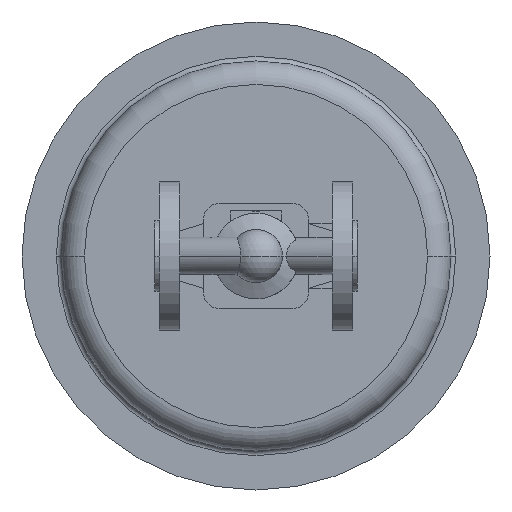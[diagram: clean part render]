
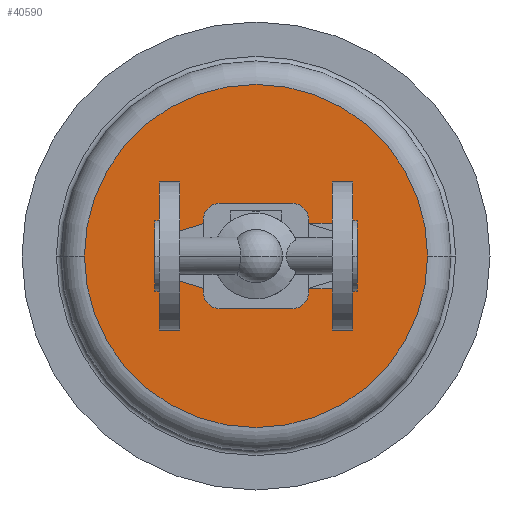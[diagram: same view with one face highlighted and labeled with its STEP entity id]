
A CAD part, front view. The second image highlights one B-rep face of the part: STEP entity #40590.
In plain terms, the highlighted planar face has unit normal (0, -1, 0).
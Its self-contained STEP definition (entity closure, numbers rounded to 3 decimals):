
#33290=CARTESIAN_POINT('',(-45.,348.,0.));
#33300=VERTEX_POINT('',#33290);
#33390=CARTESIAN_POINT('',(175.,348.,0.));
#33400=VERTEX_POINT('',#33390);
#33430=CARTESIAN_POINT('',(65.,348.,0.));
#33440=DIRECTION('',(0.,1.,0.));
#33450=DIRECTION('',(1.,0.,0.));
#33460=AXIS2_PLACEMENT_3D('',#33430,#33440,#33450);
#33470=CIRCLE('',#33460,110.);
#33480=EDGE_CURVE('',#33300,#33400,#33470,.T.);
#34060=CARTESIAN_POINT('',(130.,348.,0.));
#34070=VERTEX_POINT('',#34060);
#34230=CARTESIAN_POINT('',(100.,348.,0.));
#34240=VERTEX_POINT('',#34230);
#34270=CARTESIAN_POINT('',(115.,348.,0.));
#34280=DIRECTION('',(0.,1.,0.));
#34290=DIRECTION('',(1.,0.,0.));
#34300=AXIS2_PLACEMENT_3D('',#34270,#34280,#34290);
#34310=CIRCLE('',#34300,15.);
#34320=EDGE_CURVE('',#34240,#34070,#34310,.T.);
#34480=CARTESIAN_POINT('',(30.,348.,0.));
#34490=VERTEX_POINT('',#34480);
#34650=CARTESIAN_POINT('',(0.,348.,0.));
#34660=VERTEX_POINT('',#34650);
#34690=CARTESIAN_POINT('',(15.,348.,0.));
#34700=DIRECTION('',(0.,1.,0.));
#34710=DIRECTION('',(1.,0.,0.));
#34720=AXIS2_PLACEMENT_3D('',#34690,#34700,#34710);
#34730=CIRCLE('',#34720,15.);
#34740=EDGE_CURVE('',#34660,#34490,#34730,.T.);
#34880=CARTESIAN_POINT('',(83.45,348.,0.));
#34890=VERTEX_POINT('',#34880);
#35070=CARTESIAN_POINT('',(46.55,348.,0.));
#35080=VERTEX_POINT('',#35070);
#35110=CARTESIAN_POINT('',(65.,348.,0.));
#35120=DIRECTION('',(0.,1.,0.));
#35130=DIRECTION('',(1.,0.,0.));
#35140=AXIS2_PLACEMENT_3D('',#35110,#35120,#35130);
#35150=CIRCLE('',#35140,18.45);
#35160=EDGE_CURVE('',#35080,#34890,#35150,.T.);
#40340=CARTESIAN_POINT('',(120.,348.,0.));
#40350=DIRECTION('',(0.,-1.,0.));
#40360=DIRECTION('',(-1.,0.,0.));
#40370=AXIS2_PLACEMENT_3D('',#40340,#40350,#40360);
#40380=PLANE('',#40370);
#40390=EDGE_CURVE('',#34890,#35080,#35150,.T.);
#40400=ORIENTED_EDGE('',*,*,#40390,.T.);
#40410=ORIENTED_EDGE('',*,*,#35160,.T.);
#40420=EDGE_LOOP('',(#40410,#40400));
#40430=FACE_BOUND('',#40420,.T.);
#40440=EDGE_CURVE('',#34490,#34660,#34730,.T.);
#40450=ORIENTED_EDGE('',*,*,#40440,.T.);
#40460=ORIENTED_EDGE('',*,*,#34740,.T.);
#40470=EDGE_LOOP('',(#40460,#40450));
#40480=FACE_BOUND('',#40470,.T.);
#40490=EDGE_CURVE('',#34070,#34240,#34310,.T.);
#40500=ORIENTED_EDGE('',*,*,#40490,.T.);
#40510=ORIENTED_EDGE('',*,*,#34320,.T.);
#40520=EDGE_LOOP('',(#40510,#40500));
#40530=FACE_BOUND('',#40520,.T.);
#40540=EDGE_CURVE('',#33400,#33300,#33470,.T.);
#40550=ORIENTED_EDGE('',*,*,#40540,.F.);
#40560=ORIENTED_EDGE('',*,*,#33480,.F.);
#40570=EDGE_LOOP('',(#40560,#40550));
#40580=FACE_OUTER_BOUND('',#40570,.T.);
#40590=ADVANCED_FACE('',(#40430,#40480,#40530,#40580),#40380,.T.);
